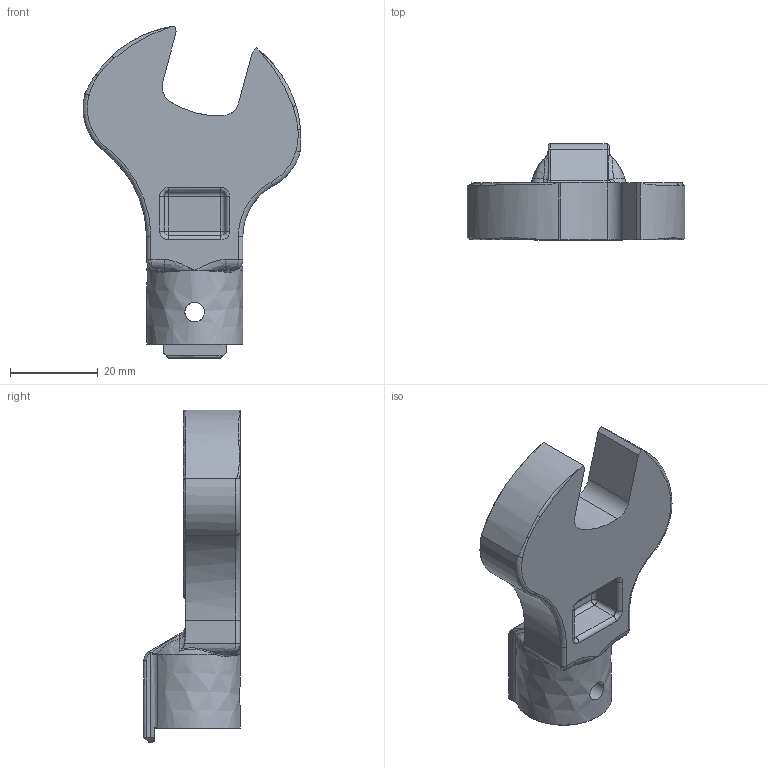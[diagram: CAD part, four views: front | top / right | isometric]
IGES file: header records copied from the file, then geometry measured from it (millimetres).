
Global section: file name: SH15DX18; native system: Autodesk Inventor 2016; preprocessor: unknown; author: Q600; date: 20151029.181215; units: millimetre
Bounding box: 49.82 x 22 x 75.89 mm (x, y, z)
Volume: 23241.6 mm3; surface area: 8468.7 mm2
Topology: 1 solids, 1 shells, 132 faces, 347 edges, 211 vertices
Faces by surface type: bspline 132
